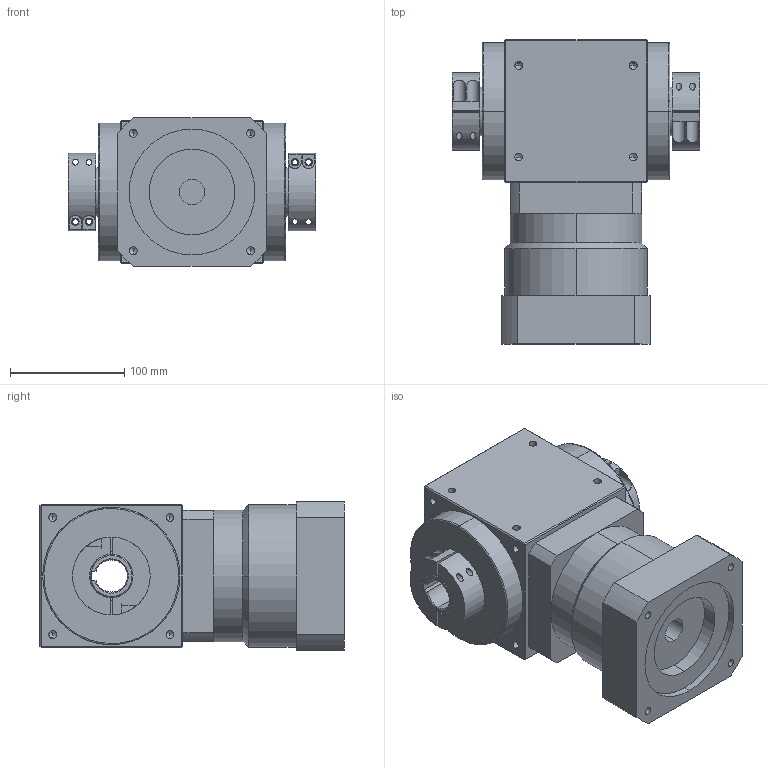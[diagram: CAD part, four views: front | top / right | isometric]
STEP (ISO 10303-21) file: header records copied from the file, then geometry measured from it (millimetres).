
FILE_DESCRIPTION (( 'STEP AP214' ), '1' );
FILE_NAME ('PAW125A-L1-2C-K(3-10) 22-110-145-M8.STEP', '2021-04-24T08:09:36', ( 'Microsoft' ), ( 'Microsoft China' ), 'SwSTEP 2.0', 'SolidWorks 2016', '' );
FILE_SCHEMA (( 'AUTOMOTIVE_DESIGN' ));
Length unit declared in the file: millimetre
Products named in the file (3): PAW125A-L1-2C-K(3-10) 22-110-145-M8; PAW125A-L2-2C-K-22-110-145-M8 - SK_1; 125標杶_1
Assembly tree (3 placements, depth 2):
  PAW125A-L1-2C-K(3-10) 22-110-145-M8
    PAW125A-L2-2C-K-22-110-145-M8 - SK_1
    125標杶_1  x2
Bounding box: 216 x 266 x 130 mm (x, y, z)
Volume: 4135378.7 mm3; surface area: 282254.3 mm2
Topology: 6 solids, 6 shells, 286 faces, 703 edges, 416 vertices
Faces by surface type: cylinder 131, plane 94, cone 57, bspline 4
Entity records: 10093 total; most frequent: CARTESIAN_POINT 1727, DIRECTION 1227, ORIENTED_EDGE 1094, EDGE_CURVE 547, AXIS2_PLACEMENT_3D 476, VERTEX_POINT 344, EDGE_LOOP 299, VECTOR 275
